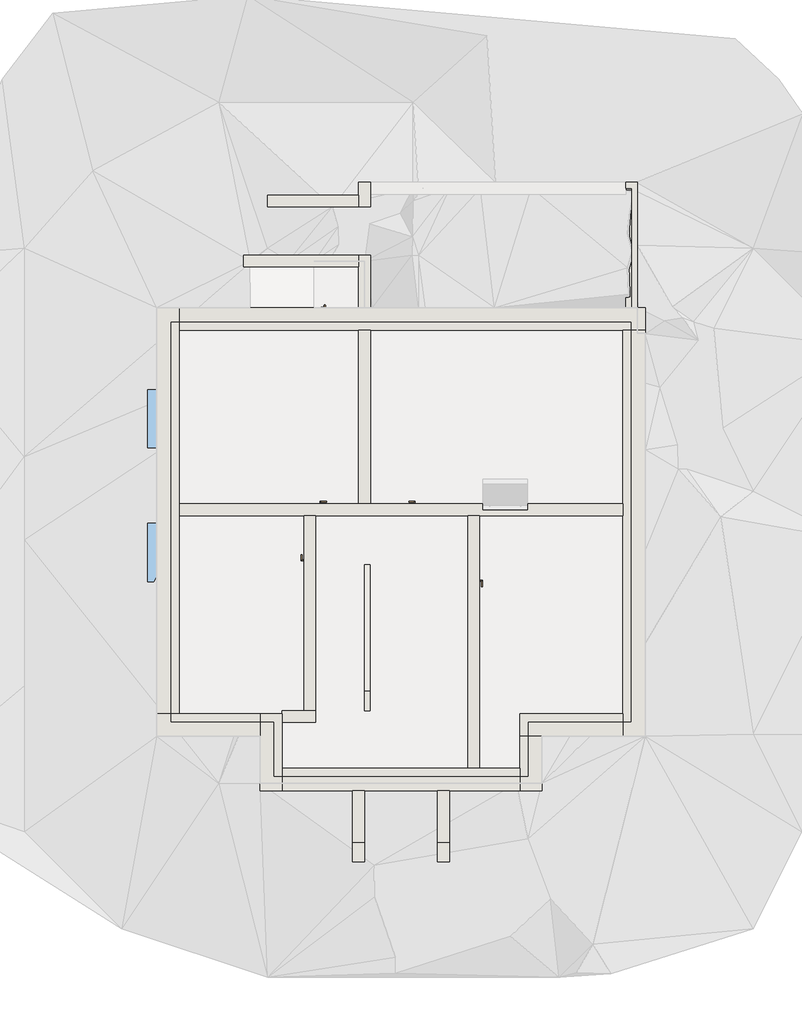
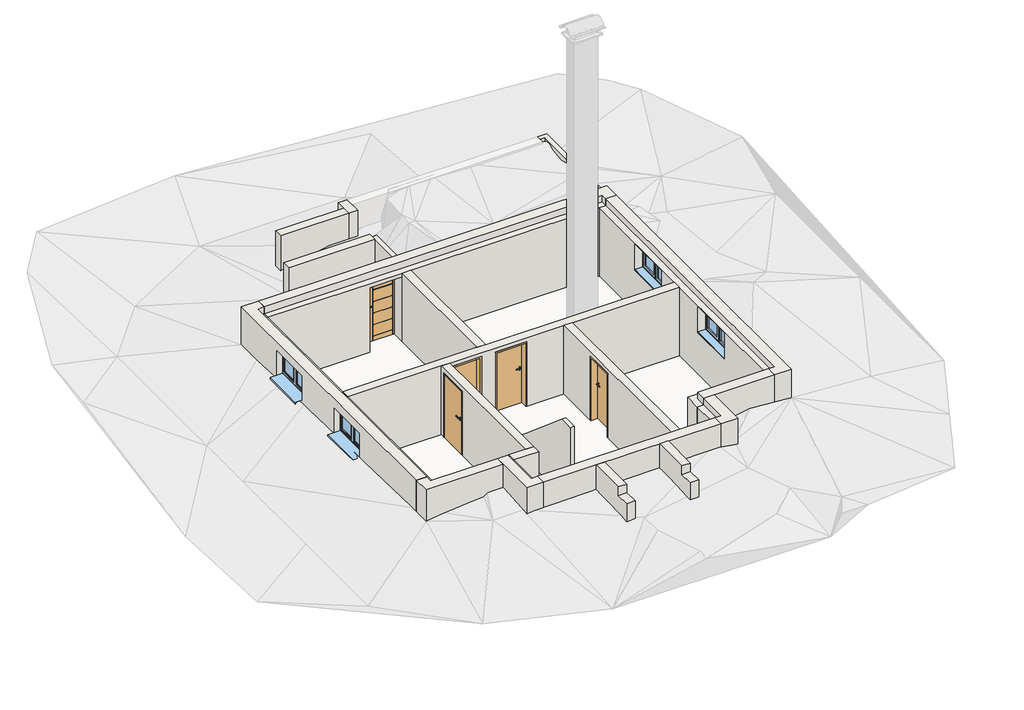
# Not in any storey, part 1 of 2: 21 walls, 5 doors, 4 windows.
"""IFC4 building model written with IfcOpenShell, lengths in millimetres."""

from ifc_helpers import new_model, si_unit, frame, origin, place, context, project, spatial, polyline, outline, extrude, faceted_brep, transform, mapped, element, save
from components import door_1b2f5746, door_21564633, ml_885_x_1885_d409164e, fe_2_tlg_konfigurierbar_1260_x_760_2a4c1234

model = new_model("IFC4")

# Units and contexts
model_context = context("Model", 3, world=origin())
ifc_project = project(units=[si_unit("LENGTHUNIT", "METRE", prefix="MILLI")], contexts=[model_context])

# Site, building
site = spatial("IfcSite", under=ifc_project)
building = spatial("IfcBuilding", under=site)

# Doors
placement = place(None, origin())
door_shape = door_1b2f5746(model_context)
element("IfcDoor", 1, ObjectType="TU DF 1 - Rahmenstock flächenbündig variabel : ML - H - 885 x 1885", at=placement, inside=building, context=model_context, shape_type="MappedRepresentation", body=[
    mapped(door_shape, transform((2682.5, 5620.0, -1200.0), x_axis=(-1.0, 0.0, 0.0), y_axis=(0.0, -1.0, 0.0), z_axis=(0.0, 0.0, 1.0))),
])
door_2_shape = door_21564633(model_context)
element("IfcDoor", 2, ObjectType="TU DF 1 - Rahmenstock flächenbündig variabel : ML - H - 885 x 1885", at=placement, inside=building, context=model_context, shape_type="MappedRepresentation", body=[
    mapped(door_2_shape, transform((4245.0, 3817.5, -1200.0), x_axis=(0.0, -1.0, 0.0), y_axis=(1.0, 0.0, 0.0), z_axis=(0.0, 0.0, 1.0))),
])
element("IfcDoor", 3, ObjectType="TU DF 1 - Rahmenstock flächenbündig variabel : ML - H - 885 x 1885", at=placement, inside=building, context=model_context, shape_type="MappedRepresentation", body=[
    mapped(door_2_shape, transform((870.0, 4922.5, -1200.0), x_axis=(0.0, 1.0, 0.0), y_axis=(-1.0, 0.0, 0.0), z_axis=(0.0, 0.0, 1.0))),
])
element("IfcDoor", 4, ObjectType="TU DF 1 - Rahmenstock flächenbündig variabel : ML - H - 885 x 1885", at=placement, inside=building, context=model_context, shape_type="MappedRepresentation", body=[
    mapped(door_2_shape, transform((1432.5, 5620.0, -1200.0), x_axis=(1.0, 0.0, 0.0), y_axis=(0.0, 1.0, 0.0), z_axis=(0.0, 0.0, 1.0))),
])
ml_885_x_1885_shape = ml_885_x_1885_d409164e(model_context)
element("IfcDoor", 5, ObjectType="TU DF 1 - Haustüre : ML - 885 x 1885", at=placement, inside=building, context=model_context, shape_type="MappedRepresentation", body=[
    mapped(ml_885_x_1885_shape, transform((1432.5, 9545.0, -1200.0), x_axis=(-1.0, 0.0, 0.0), y_axis=(0.0, -1.0, 0.0), z_axis=(0.0, 0.0, 1.0))),
])

# Walls
element("IfcWall", 6, ObjectType="Ziegel+WD hart 300+160", at=placement, inside=building, context=model_context, shape_type="Brep", body=[
    faceted_brep([(300.0, -160.0, -1200.0), (300.0, 300.0, -1200.0), (300.0, 1250.0, -1200.0), (300.0, 1425.0, -1200.0), (300.0, 1425.0, 800.0), (300.0, 1250.0, 800.0), (300.0, 300.0, 800.0), (300.0, 125.0, 800.0), (300.0, 125.0, 1000.0), (300.0, -160.0, 1000.0), (-160.0, 1425.0, -1200.0), (-160.0, 965.0, -1200.0), (-160.0, -160.0, -1200.0), (-160.0, -160.0, 1000.0), (-160.0, 965.0, 1000.0), (-160.0, 1250.0, 1000.0), (-160.0, 1250.0, 800.0), (-160.0, 1425.0, 800.0), (125.0, 125.0, 1000.0), (125.0, 1250.0, 1000.0), (125.0, 1250.0, 800.0), (125.0, 125.0, 800.0)], [[[0, 1, 2, 3, 4, 5, 6, 7, 8, 9]], [[10, 11, 12, 13, 14, 15, 16, 17]], [[3, 2, 1, 0, 12, 11, 10]], [[13, 9, 8, 18, 19, 15, 14]], [[0, 9, 13, 12]], [[3, 10, 17, 4]], [[20, 21, 7, 6, 5, 4, 17, 16]], [[21, 18, 8, 7]], [[21, 20, 19, 18]], [[19, 20, 16, 15]]]),
])
element("IfcWall", 7, ObjectType="Ziegel+WD hart 300+160", at=placement, inside=building, context=model_context, shape_type="Brep", body=[
    faceted_brep([(-160.0, 1425.0, -1200.0), (-1825.0, 1425.0, -1200.0), (-2285.0, 1425.0, -1200.0), (-2285.0, 1425.0, 1000.0), (-2000.0, 1425.0, 1000.0), (-2000.0, 1425.0, 800.0), (-1825.0, 1425.0, 800.0), (-160.0, 1425.0, 800.0), (-2285.0, 965.0, -1200.0), (-160.0, 965.0, -1200.0), (-160.0, 965.0, 1000.0), (-2285.0, 965.0, 1000.0), (-160.0, 1250.0, 1000.0), (-2000.0, 1250.0, 1000.0), (-160.0, 1250.0, 800.0), (-2000.0, 1250.0, 800.0)], [[[0, 1, 2, 3, 4, 5, 6, 7]], [[8, 9, 10, 11]], [[2, 1, 0, 9, 8]], [[11, 10, 12, 13, 4, 3]], [[3, 2, 8, 11]], [[9, 0, 7, 14, 12, 10]], [[5, 15, 14, 7, 6]], [[15, 13, 12, 14]], [[13, 15, 5, 4]]]),
])
element("IfcWall", 8, ObjectType="Ziegel+WD hart 300+160", at=placement, inside=building, context=model_context, shape_type="Brep", body=[
    faceted_brep([(-1825.0, 1425.0, -1200.0), (-1825.0, 5500.0, -1200.0), (-1825.0, 5740.0, -1200.0), (-1825.0, 9315.0, -1200.0), (-1825.0, 9775.0, -1200.0), (-1825.0, 9775.0, 1000.0), (-1825.0, 9490.0, 1000.0), (-1825.0, 9490.0, 800.0), (-1825.0, 9315.0, 800.0), (-1825.0, 5740.0, 800.0), (-1825.0, 5500.0, 800.0), (-1825.0, 1425.0, 800.0), (-1825.0, 4115.0, 760.0), (-1825.0, 5375.0, 760.0), (-1825.0, 5375.0, 0.0), (-1825.0, 4115.0, 0.0), (-1825.0, 6865.0, 760.0), (-1825.0, 8125.0, 760.0), (-1825.0, 8125.0, 0.0), (-1825.0, 6865.0, 0.0), (-2285.0, 9775.0, -1200.0), (-2285.0, 1425.0, -1200.0), (-2285.0, 1425.0, 1000.0), (-2285.0, 9775.0, 1000.0), (-2285.0, 5345.0, 15.0), (-2285.0, 5345.0, 730.0), (-2285.0, 4145.0, 730.0), (-2285.0, 4145.0, 15.0), (-2285.0, 8095.0, 15.0), (-2285.0, 8095.0, 730.0), (-2285.0, 6895.0, 730.0), (-2285.0, 6895.0, 15.0), (-2000.0, 1425.0, 1000.0), (-2000.0, 9490.0, 1000.0), (-2000.0, 1425.0, 800.0), (-2125.0, 4115.0, 760.0), (-2125.0, 5375.0, 760.0), (-2125.0, 4115.0, 0.0), (-2125.0, 5375.0, 0.0), (-2125.0, 5345.0, 730.0), (-2125.0, 5345.0, 20.0), (-2125.0, 4145.0, 20.0), (-2125.0, 4145.0, 730.0), (-2000.0, 9490.0, 800.0), (-2125.0, 8125.0, 760.0), (-2125.0, 6865.0, 760.0), (-2125.0, 6865.0, 0.0), (-2125.0, 8125.0, 0.0), (-2125.0, 8095.0, 730.0), (-2125.0, 8095.0, 20.0), (-2125.0, 6895.0, 20.0), (-2125.0, 6895.0, 730.0)], [[[0, 1, 2, 3, 4, 5, 6, 7, 8, 9, 10, 11], [12, 13, 14, 15], [16, 17, 18, 19]], [[20, 21, 22, 23], [24, 25, 26, 27], [28, 29, 30, 31]], [[4, 3, 2, 1, 0, 21, 20]], [[23, 22, 32, 33, 6, 5]], [[22, 21, 0, 11, 34, 32]], [[5, 4, 20, 23]], [[35, 36, 13, 12]], [[37, 15, 14, 38]], [[35, 12, 15, 37]], [[13, 36, 38, 14]], [[36, 35, 37, 38], [39, 40, 41, 42]], [[40, 39, 25, 24]], [[41, 40, 24, 27]], [[42, 41, 27, 26]], [[39, 42, 26, 25]], [[43, 34, 11, 10, 9, 8, 7]], [[33, 43, 7, 6]], [[43, 33, 32, 34]], [[44, 17, 16, 45]], [[46, 19, 18, 47]], [[45, 16, 19, 46]], [[17, 44, 47, 18]], [[44, 45, 46, 47], [48, 49, 50, 51]], [[49, 48, 29, 28]], [[50, 49, 28, 31]], [[51, 50, 31, 30]], [[48, 51, 30, 29]]]),
])
element("IfcWall", 9, ObjectType="Ziegel+WD hart 300+160", at=placement, inside=building, context=model_context, shape_type="Brep", body=[
    faceted_brep([(7775.0, 9315.0, -1200.0), (7775.0, 9315.0, 1000.0), (7490.0, 9315.0, 1000.0), (7490.0, 9315.0, 800.0), (7315.0, 9315.0, 800.0), (2115.0, 9315.0, 800.0), (1875.0, 9315.0, 800.0), (-1825.0, 9315.0, 800.0), (-1825.0, 9315.0, -1200.0), (990.0, 9315.0, -1200.0), (990.0, 9315.0, 685.0), (1875.0, 9315.0, 685.0), (1875.0, 9315.0, -1200.0), (2115.0, 9315.0, -1200.0), (7315.0, 9315.0, -1200.0), (-1825.0, 9775.0, 1000.0), (7775.0, 9775.0, 1000.0), (7775.0, 9775.0, -1200.0), (1875.0, 9775.0, -1200.0), (1875.0, 9775.0, 685.0), (990.0, 9775.0, 685.0), (990.0, 9775.0, -1200.0), (-1825.0, 9775.0, -1200.0), (-1825.0, 9490.0, 1000.0), (7490.0, 9490.0, 1000.0), (-1825.0, 9490.0, 800.0), (7490.0, 9490.0, 800.0)], [[[0, 1, 2, 3, 4, 5, 6, 7, 8, 9, 10, 11, 12, 13, 14]], [[15, 16, 17, 18, 19, 20, 21, 22]], [[8, 22, 21, 9]], [[17, 0, 14, 13, 12, 18]], [[16, 15, 23, 24, 2, 1]], [[15, 22, 8, 7, 25, 23]], [[1, 0, 17, 16]], [[3, 26, 25, 7, 6, 5, 4]], [[26, 24, 23, 25]], [[24, 26, 3, 2]], [[19, 11, 10, 20]], [[20, 10, 9, 21]], [[11, 19, 18, 12]]]),
])
element("IfcWall", 10, ObjectType="Ziegel+WD hart 300+160", at=placement, inside=building, context=model_context, shape_type="Brep", body=[
    faceted_brep([(7315.0, 9315.0, -1200.0), (7315.0, 5740.0, -1200.0), (7315.0, 5500.0, -1200.0), (7315.0, 1425.0, -1200.0), (7315.0, 965.0, -1200.0), (7315.0, 965.0, 1000.0), (7315.0, 1250.0, 1000.0), (7315.0, 1250.0, 800.0), (7315.0, 1425.0, 800.0), (7315.0, 5500.0, 800.0), (7315.0, 5740.0, 800.0), (7315.0, 9315.0, 800.0), (7315.0, 4625.0, 760.0), (7315.0, 3365.0, 760.0), (7315.0, 3365.0, 0.0), (7315.0, 4625.0, 0.0), (7315.0, 7625.0, 760.0), (7315.0, 6365.0, 760.0), (7315.0, 6365.0, 0.0), (7315.0, 7625.0, 0.0), (7775.0, 965.0, -1200.0), (7775.0, 9315.0, -1200.0), (7775.0, 9315.0, 1000.0), (7775.0, 965.0, 1000.0), (7775.0, 3395.0, 15.0), (7775.0, 3395.0, 730.0), (7775.0, 4595.0, 730.0), (7775.0, 4595.0, 15.0), (7775.0, 6395.0, 15.0), (7775.0, 6395.0, 730.0), (7775.0, 7595.0, 730.0), (7775.0, 7595.0, 15.0), (7490.0, 9315.0, 800.0), (7490.0, 9315.0, 1000.0), (7615.0, 4625.0, 760.0), (7615.0, 3365.0, 760.0), (7615.0, 4625.0, 0.0), (7615.0, 3365.0, 0.0), (7615.0, 3395.0, 730.0), (7615.0, 3395.0, 20.0), (7615.0, 4595.0, 20.0), (7615.0, 4595.0, 730.0), (7490.0, 1250.0, 800.0), (7490.0, 1250.0, 1000.0), (7615.0, 6365.0, 760.0), (7615.0, 7625.0, 760.0), (7615.0, 7625.0, 0.0), (7615.0, 6365.0, 0.0), (7615.0, 6395.0, 730.0), (7615.0, 6395.0, 20.0), (7615.0, 7595.0, 20.0), (7615.0, 7595.0, 730.0)], [[[0, 1, 2, 3, 4, 5, 6, 7, 8, 9, 10, 11], [12, 13, 14, 15], [16, 17, 18, 19]], [[20, 21, 22, 23], [24, 25, 26, 27], [28, 29, 30, 31]], [[22, 21, 0, 11, 32, 33]], [[5, 4, 20, 23]], [[34, 35, 13, 12]], [[36, 15, 14, 37]], [[34, 12, 15, 36]], [[13, 35, 37, 14]], [[35, 34, 36, 37], [38, 39, 40, 41]], [[39, 38, 25, 24]], [[40, 39, 24, 27]], [[41, 40, 27, 26]], [[38, 41, 26, 25]], [[7, 42, 32, 11, 10, 9, 8]], [[42, 43, 33, 32]], [[43, 42, 7, 6]], [[44, 17, 16, 45]], [[46, 19, 18, 47]], [[45, 16, 19, 46]], [[17, 44, 47, 18]], [[44, 45, 46, 47], [48, 49, 50, 51]], [[49, 48, 29, 28]], [[50, 49, 28, 31]], [[51, 50, 31, 30]], [[48, 51, 30, 29]], [[4, 3, 2, 1, 0, 21, 20]], [[23, 22, 33, 43, 6, 5]]]),
])
element("IfcWall", 11, ObjectType="Ziegel+WD hart 300+160", at=placement, inside=building, context=model_context, shape_type="Brep", body=[
    faceted_brep([(7315.0, 1425.0, -1200.0), (5190.0, 1425.0, -1200.0), (5190.0, 1425.0, 800.0), (7315.0, 1425.0, 800.0), (5190.0, 965.0, -1200.0), (5650.0, 965.0, -1200.0), (7315.0, 965.0, -1200.0), (7315.0, 965.0, 1000.0), (5650.0, 965.0, 1000.0), (5365.0, 965.0, 1000.0), (5365.0, 965.0, 800.0), (5190.0, 965.0, 800.0), (7315.0, 1250.0, 1000.0), (5365.0, 1250.0, 1000.0), (7315.0, 1250.0, 800.0), (5365.0, 1250.0, 800.0)], [[[0, 1, 2, 3]], [[4, 5, 6, 7, 8, 9, 10, 11]], [[1, 0, 6, 5, 4]], [[9, 8, 7, 12, 13]], [[7, 6, 0, 3, 14, 12]], [[1, 4, 11, 2]], [[10, 15, 14, 3, 2, 11]], [[15, 13, 12, 14]], [[13, 15, 10, 9]]]),
])
element("IfcWall", 12, ObjectType="Ziegel+WD hart 300+160", at=placement, inside=building, context=model_context, shape_type="Brep", body=[
    faceted_brep([(5190.0, 965.0, -1200.0), (5190.0, 300.0, -1200.0), (5190.0, -160.0, -1200.0), (5190.0, -160.0, 1000.0), (5190.0, 125.0, 1000.0), (5190.0, 125.0, 800.0), (5190.0, 300.0, 800.0), (5190.0, 965.0, 800.0), (5650.0, -160.0, -1200.0), (5650.0, 965.0, -1200.0), (5650.0, 965.0, 1000.0), (5650.0, -160.0, 1000.0), (5365.0, 965.0, 1000.0), (5365.0, 125.0, 1000.0), (5365.0, 965.0, 800.0), (5365.0, 125.0, 800.0)], [[[0, 1, 2, 3, 4, 5, 6, 7]], [[8, 9, 10, 11]], [[2, 1, 0, 9, 8]], [[11, 10, 12, 13, 4, 3]], [[10, 9, 0, 7, 14, 12]], [[3, 2, 8, 11]], [[5, 15, 14, 7, 6]], [[15, 13, 12, 14]], [[13, 15, 5, 4]]]),
])
element("IfcWall", 13, ObjectType="Ziegel+WD hart 300+160", at=placement, inside=building, context=model_context, shape_type="SweptSolid", body=[
    extrude(outline(polyline([(300.0, -1200.0), (-160.0, -1200.0), (-160.0, 1000.0), (125.0, 1000.0), (125.0, 800.0), (300.0, 800.0), (300.0, -1200.0)])), frame((300.0, 0.0, 0.0), z_axis=(1.0, 0.0, 0.0), x_axis=(0.0, 1.0, 0.0)), (0.0, 0.0, 1.0), 4890.0),
])
element("IfcWall", 14, ObjectType="Klinker 240", at=placement, inside=building, context=model_context, shape_type="Brep", body=[
    faceted_brep([(7615.0, 9775.0, -1200.0), (7615.0, 12355.0, -1200.0), (7615.0, 12355.0, 1000.0), (7615.0, 9775.0, 1000.0), (7375.0, 12355.0, -1200.0), (7375.0, 12115.0, -1200.0), (7375.0, 9775.0, -1200.0), (7375.0, 9775.0, 800.0), (7375.0, 12235.0, 800.0), (7375.0, 12235.0, 1000.0), (7375.0, 12355.0, 1000.0), (7495.0, 12235.0, 1000.0), (7495.0, 9775.0, 1000.0), (7495.0, 9775.0, 800.0), (7495.0, 12235.0, 800.0)], [[[0, 1, 2, 3]], [[4, 5, 6, 7, 8, 9, 10]], [[1, 0, 6, 5, 4]], [[3, 2, 10, 9, 11, 12]], [[0, 3, 12, 13, 7, 6]], [[2, 1, 4, 10]], [[13, 14, 8, 7]], [[14, 11, 9, 8]], [[11, 14, 13, 12]]]),
])
element("IfcWall", 15, ObjectType="Klinker 240", at=placement, inside=building, context=model_context, shape_type="Brep", body=[
    faceted_brep([(2115.0, 9775.0, -1200.0), (2115.0, 10855.0, -1200.0), (2115.0, 10855.0, 800.0), (2115.0, 9775.0, 800.0), (1875.0, 10855.0, -1200.0), (1875.0, 10615.0, -1200.0), (1875.0, 9775.0, -1200.0), (1875.0, 9775.0, 1000.0), (1875.0, 10615.0, 1000.0), (1875.0, 10735.0, 1000.0), (1875.0, 10735.0, 800.0), (1875.0, 10855.0, 800.0), (1995.0, 9775.0, 1000.0), (1995.0, 10735.0, 1000.0), (1995.0, 9775.0, 800.0), (1995.0, 10735.0, 800.0)], [[[0, 1, 2, 3]], [[4, 5, 6, 7, 8, 9, 10, 11]], [[1, 0, 6, 5, 4]], [[9, 8, 7, 12, 13]], [[7, 6, 0, 3, 14, 12]], [[1, 4, 11, 2]], [[10, 15, 14, 3, 2, 11]], [[15, 13, 12, 14]], [[13, 15, 10, 9]]]),
])
element("IfcWall", 16, ObjectType="Klinker 240", at=placement, inside=building, context=model_context, shape_type="Brep", body=[
    faceted_brep([(1875.0, 10855.0, -1200.0), (-500.0, 10855.0, -1200.0), (-500.0, 10855.0, 1000.0), (615.0, 10855.0, 1000.0), (1875.0, 10855.0, 1000.0), (1875.0, 10855.0, 800.0), (1875.0, 10615.0, -1200.0), (1875.0, 10615.0, 1000.0), (615.0, 10615.0, 1000.0), (-500.0, 10615.0, 1000.0), (-500.0, 10615.0, -1200.0), (1875.0, 10735.0, 1000.0)], [[[0, 1, 2, 3, 4, 5]], [[6, 7, 8, 9, 10]], [[1, 0, 6, 10]], [[2, 1, 10, 9]], [[4, 3, 2, 9, 8, 7, 11]], [[0, 5, 4, 11, 7, 6]]]),
])
element("IfcWall", 17, ObjectType="Klinker 240", at=placement, inside=building, context=model_context, shape_type="Brep", body=[
    faceted_brep([(1875.0, 12355.0, -1200.0), (1875.0, 12095.0, -1200.0), (1875.0, 11855.0, -1200.0), (1875.0, 11855.0, 1000.0), (1875.0, 12095.0, 1000.0), (1875.0, 12355.0, 1000.0), (2115.0, 12355.0, -1200.0), (2115.0, 12355.0, 1000.0), (2115.0, 12115.0, 1000.0), (2115.0, 11855.0, 1000.0), (2115.0, 11855.0, -1200.0), (2115.0, 12115.0, -1200.0)], [[[0, 1, 2, 3, 4, 5]], [[6, 7, 8, 9, 10, 11]], [[2, 1, 0, 6, 11, 10]], [[5, 4, 3, 9, 8, 7]], [[0, 5, 7, 6]], [[3, 2, 10, 9]]]),
])
element("IfcWall", 18, ObjectType="Klinker 240", at=placement, inside=building, context=model_context, shape_type="Brep", body=[
    faceted_brep([(1875.0, 12095.0, -1200.0), (-5.0, 12095.0, -1200.0), (-5.0, 12095.0, 1000.0), (615.0, 12095.0, 1000.0), (1875.0, 12095.0, 1000.0), (-5.0, 11855.0, -1200.0), (1875.0, 11855.0, -1200.0), (1875.0, 11855.0, 800.0), (1875.0, 11855.0, 1000.0), (1620.0, 11855.0, 1000.0), (615.0, 11855.0, 1000.0), (-5.0, 11855.0, 1000.0)], [[[0, 1, 2, 3, 4]], [[5, 6, 7, 8, 9, 10, 11]], [[0, 4, 8, 7, 6]], [[1, 0, 6, 5]], [[2, 1, 5, 11]], [[4, 3, 2, 11, 10, 9, 8]]]),
])
element("IfcWall", 19, ObjectType="Klinker 240", at=placement, inside=building, context=model_context, shape_type="SweptSolid", body=[
    extrude(outline(polyline([(-160.0, -500.0), (-1620.0, -500.0), (-1620.0, 750.0), (-1220.0, 750.0), (-1220.0, 1000.0), (-160.0, 1000.0), (-160.0, -500.0)])), frame((1750.0, 0.0, 0.0), z_axis=(1.0, 0.0, 0.0), x_axis=(0.0, 1.0, 0.0)), (0.0, 0.0, 1.0), 240.0),
])
element("IfcWall", 20, ObjectType="Klinker 240", at=placement, inside=building, context=model_context, shape_type="SweptSolid", body=[
    extrude(outline(polyline([(-160.0, -500.0), (-1620.0, -500.0), (-1620.0, 750.0), (-1220.0, 750.0), (-1220.0, 1000.0), (-160.0, 1000.0), (-160.0, -500.0)])), frame((3500.0, 0.0, 0.0), z_axis=(1.0, 0.0, 0.0), x_axis=(0.0, 1.0, 0.0)), (0.0, 0.0, 1.0), 240.0),
])
element("IfcWall", 21, ObjectType="Ziegel 115", at=placement, inside=building, context=model_context, shape_type="SweptSolid", body=[
    extrude(outline(polyline([(4490.0, -1200.0), (1490.0, -1200.0), (1490.0, 1000.0), (1901.7647059, 1000.0), (4490.0, -1200.0)])), frame((1990.0, 0.0, 0.0), z_axis=(1.0, 0.0, 0.0), x_axis=(0.0, 1.0, 0.0)), (0.0, 0.0, 1.0), 115.0),
])
element("IfcWall", 22, ObjectType="Ziegel 240", at=placement, inside=building, context=model_context, shape_type="Brep", body=[
    faceted_brep([(-1825.0, 5500.0, 800.0), (-1825.0, 5500.0, -1200.0), (750.0, 5500.0, -1200.0), (990.0, 5500.0, -1200.0), (990.0, 5500.0, 685.0), (1875.0, 5500.0, 685.0), (1875.0, 5500.0, -1200.0), (2240.0, 5500.0, -1200.0), (2240.0, 5500.0, 685.0), (3125.0, 5500.0, 685.0), (3125.0, 5500.0, -1200.0), (7315.0, 5500.0, -1200.0), (7315.0, 5500.0, 800.0), (990.0, 5500.0, 800.0), (750.0, 5500.0, 800.0), (-1825.0, 5740.0, -1200.0), (-1825.0, 5740.0, 800.0), (1875.0, 5740.0, 800.0), (2115.0, 5740.0, 800.0), (7315.0, 5740.0, 800.0), (7315.0, 5740.0, -1200.0), (3125.0, 5740.0, -1200.0), (3125.0, 5740.0, 685.0), (2240.0, 5740.0, 685.0), (2240.0, 5740.0, -1200.0), (2115.0, 5740.0, -1200.0), (1875.0, 5740.0, -1200.0), (1875.0, 5740.0, 685.0), (990.0, 5740.0, 685.0), (990.0, 5740.0, -1200.0)], [[[0, 1, 2, 3, 4, 5, 6, 7, 8, 9, 10, 11, 12, 13, 14]], [[15, 16, 17, 18, 19, 20, 21, 22, 23, 24, 25, 26, 27, 28, 29]], [[1, 15, 29, 3, 2]], [[20, 11, 10, 21]], [[24, 7, 6, 26, 25]], [[1, 0, 16, 15]], [[12, 11, 20, 19]], [[8, 7, 24, 23]], [[10, 9, 22, 21]], [[9, 8, 23, 22]], [[0, 14, 13, 12, 19, 18, 17, 16]], [[5, 27, 26, 6]], [[28, 4, 3, 29]], [[27, 5, 4, 28]]]),
])
element("IfcWall", 23, ObjectType="Ziegel 240", at=placement, inside=building, context=model_context, shape_type="Brep", body=[
    faceted_brep([(300.0, 1250.0, -1200.0), (990.0, 1250.0, -1200.0), (990.0, 1250.0, 800.0), (300.0, 1250.0, 800.0), (300.0, 1490.0, -1200.0), (300.0, 1490.0, 800.0), (750.0, 1490.0, 800.0), (990.0, 1490.0, 800.0), (990.0, 1490.0, -1200.0), (750.0, 1490.0, -1200.0), (300.0, 1425.0, -1200.0), (300.0, 1425.0, 800.0)], [[[0, 1, 2, 3]], [[4, 5, 6, 7, 8, 9]], [[1, 0, 10, 4, 9, 8]], [[0, 3, 11, 5, 4, 10]], [[3, 2, 7, 6, 5, 11]], [[2, 1, 8, 7]]]),
])
element("IfcWall", 24, ObjectType="Ziegel 240", at=placement, inside=building, context=model_context, shape_type="Brep", body=[
    faceted_brep([(990.0, 5500.0, -1200.0), (990.0, 5500.0, 685.0), (990.0, 5500.0, 800.0), (990.0, 4490.0, 800.0), (990.0, 1490.0, 800.0), (990.0, 1490.0, -1200.0), (990.0, 4480.0, -1200.0), (990.0, 4480.0, 685.0), (990.0, 5365.0, 685.0), (990.0, 5365.0, -1200.0), (750.0, 1490.0, 800.0), (750.0, 5500.0, 800.0), (750.0, 5500.0, -1200.0), (750.0, 5365.0, -1200.0), (750.0, 5365.0, 685.0), (750.0, 4480.0, 685.0), (750.0, 4480.0, -1200.0), (750.0, 1490.0, -1200.0)], [[[0, 1, 2, 3, 4, 5, 6, 7, 8, 9]], [[10, 11, 12, 13, 14, 15, 16, 17]], [[12, 0, 9, 13]], [[5, 17, 16, 6]], [[2, 1, 0, 12, 11]], [[8, 14, 13, 9]], [[15, 7, 6, 16]], [[14, 8, 7, 15]], [[11, 10, 4, 3, 2]], [[5, 4, 10, 17]]]),
])
element("IfcWall", 25, ObjectType="Ziegel 240", at=placement, inside=building, context=model_context, shape_type="SweptSolid", body=[
    extrude(outline(polyline([(5500.0, 800.0), (5500.0, -1200.0), (4260.0, -1200.0), (4260.0, 685.0), (3375.0, 685.0), (3375.0, -1200.0), (300.0, -1200.0), (300.0, 800.0), (5500.0, 800.0)])), frame((4125.0, 0.0, 0.0), z_axis=(1.0, 0.0, 0.0), x_axis=(0.0, 1.0, 0.0)), (0.0, 0.0, 1.0), 240.0),
])
element("IfcWall", 26, ObjectType="Ziegel 240", at=placement, inside=building, context=model_context, shape_type="Brep", body=[
    faceted_brep([(1875.0, 9315.0, -1200.0), (1875.0, 5740.0, -1200.0), (1875.0, 5740.0, 685.0), (1875.0, 5740.0, 800.0), (1875.0, 9315.0, 800.0), (1875.0, 9315.0, 685.0), (2115.0, 9315.0, -1200.0), (2115.0, 9315.0, 800.0), (2115.0, 5740.0, 800.0), (2115.0, 5740.0, -1200.0)], [[[0, 1, 2, 3, 4, 5]], [[6, 7, 8, 9]], [[1, 0, 6, 9]], [[0, 5, 4, 7, 6]], [[3, 2, 1, 9, 8]], [[4, 3, 8, 7]]]),
])

# Windows
fe_2_tlg_konfigurierbar_1260_x_760_shape = fe_2_tlg_konfigurierbar_1260_x_760_2a4c1234(model_context)
element("IfcWindow", 27, ObjectType="FE 2 tlg - konfigurierbar : 1260 x 760", at=placement, inside=building, context=model_context, shape_type="MappedRepresentation", body=[
    mapped(fe_2_tlg_konfigurierbar_1260_x_760_shape, transform((-2055.0, 4745.0, -850.0), x_axis=(0.0, 1.0, 0.0), y_axis=(-1.0, 0.0, 0.0), z_axis=(0.0, 0.0, 1.0))),
])
element("IfcWindow", 28, ObjectType="FE 2 tlg - konfigurierbar : 1260 x 760", at=placement, inside=building, context=model_context, shape_type="MappedRepresentation", body=[
    mapped(fe_2_tlg_konfigurierbar_1260_x_760_shape, transform((7545.0, 3995.0, -850.0), x_axis=(0.0, -1.0, 0.0), y_axis=(1.0, 0.0, 0.0), z_axis=(0.0, 0.0, 1.0))),
])
element("IfcWindow", 29, ObjectType="FE 2 tlg - konfigurierbar : 1260 x 760", at=placement, inside=building, context=model_context, shape_type="MappedRepresentation", body=[
    mapped(fe_2_tlg_konfigurierbar_1260_x_760_shape, transform((7545.0, 6995.0, -850.0), x_axis=(0.0, -1.0, 0.0), y_axis=(1.0, 0.0, 0.0), z_axis=(0.0, 0.0, 1.0))),
])
element("IfcWindow", 30, ObjectType="FE 2 tlg - konfigurierbar : 1260 x 760", at=placement, inside=building, context=model_context, shape_type="MappedRepresentation", body=[
    mapped(fe_2_tlg_konfigurierbar_1260_x_760_shape, transform((-2055.0, 7495.0, -850.0), x_axis=(0.0, 1.0, 0.0), y_axis=(-1.0, 0.0, 0.0), z_axis=(0.0, 0.0, 1.0))),
])

save(model, "model.ifc")
